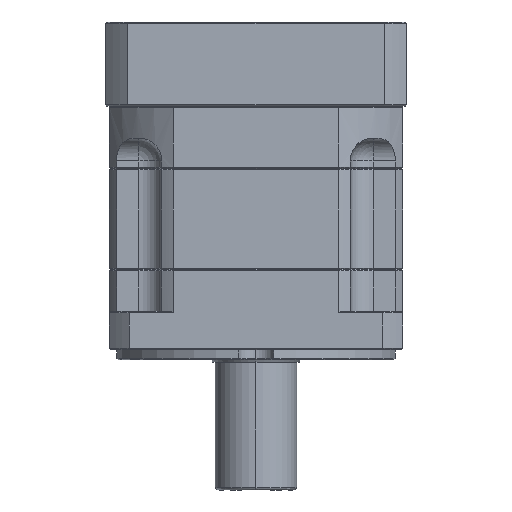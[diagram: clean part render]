
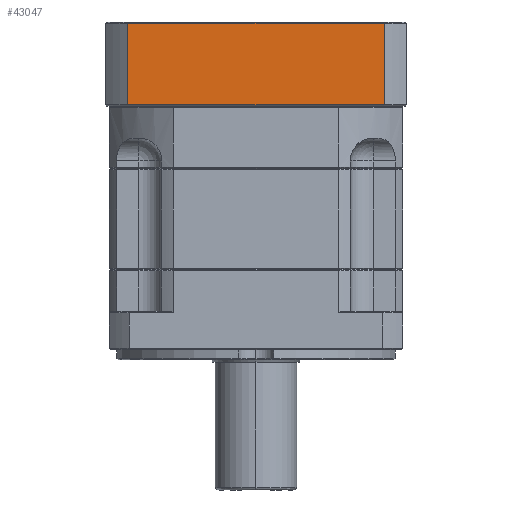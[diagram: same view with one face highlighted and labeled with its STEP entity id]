
A CAD part, left-side view. The second image highlights one B-rep face of the part: STEP entity #43047.
In plain terms, the highlighted planar face has unit normal (-1, 0, 0).
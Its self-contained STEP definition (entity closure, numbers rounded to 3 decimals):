
#3972 = EDGE_LOOP ( 'NONE', ( #98087, #22397, #16331, #12438 ) ) ;
#11029 = LINE ( 'NONE', #97254, #28696 ) ;
#12438 = ORIENTED_EDGE ( 'NONE', *, *, #113411, .T. ) ;
#13593 = VERTEX_POINT ( 'NONE', #64016 ) ;
#16187 = FACE_OUTER_BOUND ( 'NONE', #3972, .T. ) ;
#16331 = ORIENTED_EDGE ( 'NONE', *, *, #24726, .T. ) ;
#22047 = VECTOR ( 'NONE', #45996, 1000. ) ;
#22397 = ORIENTED_EDGE ( 'NONE', *, *, #81840, .T. ) ;
#23654 = PLANE ( 'NONE',  #29290 ) ;
#24726 = EDGE_CURVE ( 'NONE', #96757, #66407, #33843, .T. ) ;
#27628 = DIRECTION ( 'NONE',  ( 0., 1., 0. ) ) ;
#28696 = VECTOR ( 'NONE', #88972, 1000. ) ;
#29290 = AXIS2_PLACEMENT_3D ( 'NONE', #42594, #45844, #74356 ) ;
#33843 = LINE ( 'NONE', #100933, #22047 ) ;
#38351 = CARTESIAN_POINT ( 'NONE',  ( -4.013, 35.617, 5.335 ) ) ;
#42594 = CARTESIAN_POINT ( 'NONE',  ( -4.013, 35.617, 37.835 ) ) ;
#43047 = ADVANCED_FACE ( 'NONE', ( #16187 ), #23654, .F. ) ;
#43479 = VERTEX_POINT ( 'NONE', #38351 ) ;
#45245 = VECTOR ( 'NONE', #53439, 1000. ) ;
#45844 = DIRECTION ( 'NONE',  ( 1., 0., 0. ) ) ;
#45996 = DIRECTION ( 'NONE',  ( 0., 0., -1. ) ) ;
#53439 = DIRECTION ( 'NONE',  ( 0., -1., 0. ) ) ;
#60177 = CARTESIAN_POINT ( 'NONE',  ( -4.013, 136.12, 37.335 ) ) ;
#62173 = CARTESIAN_POINT ( 'NONE',  ( -4.013, 35.617, 5.335 ) ) ;
#64016 = CARTESIAN_POINT ( 'NONE',  ( -4.013, 35.617, 37.335 ) ) ;
#66407 = VERTEX_POINT ( 'NONE', #82048 ) ;
#74356 = DIRECTION ( 'NONE',  ( 0., 1., 0. ) ) ;
#81840 = EDGE_CURVE ( 'NONE', #13593, #96757, #91755, .T. ) ;
#82048 = CARTESIAN_POINT ( 'NONE',  ( -4.013, 136.12, 5.335 ) ) ;
#88972 = DIRECTION ( 'NONE',  ( 0., 0., -1. ) ) ;
#91755 = LINE ( 'NONE', #92428, #93332 ) ;
#92428 = CARTESIAN_POINT ( 'NONE',  ( -4.013, 136.12, 37.335 ) ) ;
#93332 = VECTOR ( 'NONE', #27628, 1000. ) ;
#95402 = EDGE_CURVE ( 'NONE', #13593, #43479, #11029, .T. ) ;
#96757 = VERTEX_POINT ( 'NONE', #60177 ) ;
#97254 = CARTESIAN_POINT ( 'NONE',  ( -4.013, 35.617, 37.835 ) ) ;
#98087 = ORIENTED_EDGE ( 'NONE', *, *, #95402, .F. ) ;
#100933 = CARTESIAN_POINT ( 'NONE',  ( -4.013, 136.12, 37.835 ) ) ;
#113411 = EDGE_CURVE ( 'NONE', #66407, #43479, #117710, .T. ) ;
#117710 = LINE ( 'NONE', #62173, #45245 ) ;
